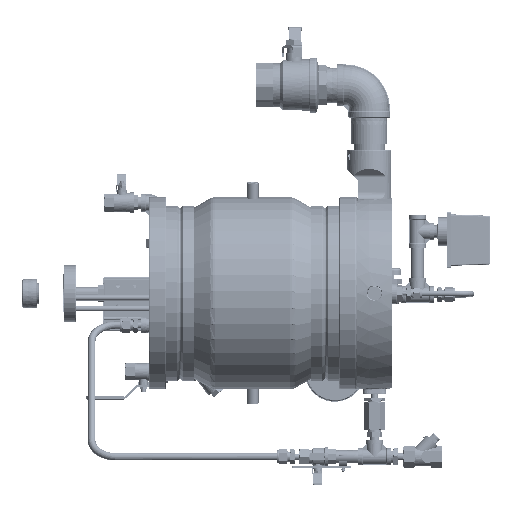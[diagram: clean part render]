
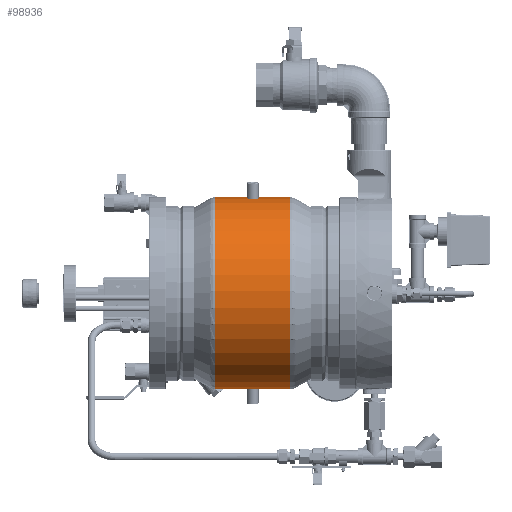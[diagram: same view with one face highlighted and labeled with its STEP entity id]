
A CAD part, top view. The second image highlights one B-rep face of the part: STEP entity #98936.
In plain terms, the highlighted cylindrical face has radius 162 mm (diameter 324 mm), a partial arc.
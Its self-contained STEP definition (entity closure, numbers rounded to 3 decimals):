
#5675=FACE_BOUND('',#18725,.T.);
#5676=FACE_BOUND('',#18726,.T.);
#12537=FACE_OUTER_BOUND('',#18724,.T.);
#18724=EDGE_LOOP('',(#78276,#78277,#78278,#78279,#78280,#78281,#78282,#78283));
#18725=EDGE_LOOP('',(#78284,#78285));
#18726=EDGE_LOOP('',(#78286,#78287));
#24284=LINE('',#160090,#30527);
#24285=LINE('',#160092,#30528);
#24286=LINE('',#160094,#30529);
#24287=LINE('',#160096,#30530);
#24288=LINE('',#160098,#30531);
#24289=LINE('',#160104,#30532);
#25549=LINE('',#168072,#31792);
#25550=LINE('',#168075,#31793);
#30527=VECTOR('',#125033,162.);
#30528=VECTOR('',#125034,10.);
#30529=VECTOR('',#125035,162.);
#30530=VECTOR('',#125036,10.);
#30531=VECTOR('',#125037,162.);
#30532=VECTOR('',#125042,162.);
#31792=VECTOR('',#128436,10.);
#31793=VECTOR('',#128437,10.);
#36229=CIRCLE('',#107494,162.);
#36230=CIRCLE('',#107496,162.);
#42161=VERTEX_POINT('',#160088);
#42162=VERTEX_POINT('',#160089);
#42163=VERTEX_POINT('',#160091);
#42164=VERTEX_POINT('',#160093);
#42165=VERTEX_POINT('',#160095);
#42166=VERTEX_POINT('',#160097);
#42168=VERTEX_POINT('',#160101);
#42169=VERTEX_POINT('',#160103);
#43546=VERTEX_POINT('',#168070);
#43547=VERTEX_POINT('',#168071);
#43548=VERTEX_POINT('',#168073);
#43549=VERTEX_POINT('',#168074);
#53599=EDGE_CURVE('',#42161,#42162,#24284,.T.);
#53600=EDGE_CURVE('',#42163,#42161,#24285,.T.);
#53601=EDGE_CURVE('',#42164,#42163,#24286,.T.);
#53602=EDGE_CURVE('',#42165,#42164,#24287,.T.);
#53603=EDGE_CURVE('',#42166,#42165,#24288,.T.);
#53606=EDGE_CURVE('',#42169,#42168,#24289,.T.);
#55668=EDGE_CURVE('',#42169,#42162,#36229,.T.);
#55669=EDGE_CURVE('',#42166,#42168,#36230,.T.);
#55670=EDGE_CURVE('',#43546,#43547,#25549,.T.);
#55671=EDGE_CURVE('',#43548,#43549,#25550,.T.);
#78276=ORIENTED_EDGE('',*,*,#53599,.T.);
#78277=ORIENTED_EDGE('',*,*,#55668,.F.);
#78278=ORIENTED_EDGE('',*,*,#53606,.T.);
#78279=ORIENTED_EDGE('',*,*,#55669,.F.);
#78280=ORIENTED_EDGE('',*,*,#53603,.T.);
#78281=ORIENTED_EDGE('',*,*,#53602,.T.);
#78282=ORIENTED_EDGE('',*,*,#53601,.T.);
#78283=ORIENTED_EDGE('',*,*,#53600,.T.);
#78284=ORIENTED_EDGE('',*,*,#55670,.T.);
#78285=ORIENTED_EDGE('',*,*,#55670,.F.);
#78286=ORIENTED_EDGE('',*,*,#55671,.T.);
#78287=ORIENTED_EDGE('',*,*,#55671,.F.);
#89545=CYLINDRICAL_SURFACE('',#107495,162.);
#98936=ADVANCED_FACE('',(#12537,#5675,#5676),#89545,.T.);
#107494=AXIS2_PLACEMENT_3D('',#168067,#128430,#128431);
#107495=AXIS2_PLACEMENT_3D('',#168068,#128432,#128433);
#107496=AXIS2_PLACEMENT_3D('',#168069,#128434,#128435);
#125033=DIRECTION('',(1.,0.,0.));
#125034=DIRECTION('',(1.,0.,0.));
#125035=DIRECTION('',(1.,0.,0.));
#125036=DIRECTION('',(1.,0.,0.));
#125037=DIRECTION('',(1.,0.,0.));
#125042=DIRECTION('',(-1.,0.,0.));
#128430=DIRECTION('center_axis',(1.,0.,0.));
#128431=DIRECTION('ref_axis',(0.,1.,0.));
#128432=DIRECTION('center_axis',(1.,0.,0.));
#128433=DIRECTION('ref_axis',(0.,0.99,0.139));
#128434=DIRECTION('center_axis',(-1.,0.,0.));
#128435=DIRECTION('ref_axis',(0.,1.,0.));
#128436=DIRECTION('',(1.,0.,0.));
#128437=DIRECTION('',(1.,0.,0.));
#160088=CARTESIAN_POINT('',(294.853,323.259,668.926));
#160089=CARTESIAN_POINT('',(347.517,323.259,668.926));
#160090=CARTESIAN_POINT('',(284.853,323.259,668.926));
#160091=CARTESIAN_POINT('',(289.041,323.259,668.926));
#160092=CARTESIAN_POINT('',(284.853,323.259,668.926));
#160093=CARTESIAN_POINT('',(280.665,323.259,668.926));
#160094=CARTESIAN_POINT('',(284.853,323.259,668.926));
#160095=CARTESIAN_POINT('',(274.853,323.259,668.926));
#160096=CARTESIAN_POINT('',(284.853,323.259,668.926));
#160097=CARTESIAN_POINT('',(222.188,323.259,668.926));
#160098=CARTESIAN_POINT('',(284.853,323.259,668.926));
#160101=CARTESIAN_POINT('',(222.188,645.683,691.472));
#160103=CARTESIAN_POINT('',(347.517,645.683,691.472));
#160104=CARTESIAN_POINT('',(284.853,645.683,691.472));
#168067=CARTESIAN_POINT('Origin',(347.517,483.683,691.472));
#168068=CARTESIAN_POINT('Origin',(284.853,483.683,691.472));
#168069=CARTESIAN_POINT('Origin',(222.188,483.683,691.472));
#168070=CARTESIAN_POINT('',(274.853,644.106,714.018));
#168071=CARTESIAN_POINT('',(280.665,644.106,714.018));
#168072=CARTESIAN_POINT('',(284.853,644.106,714.018));
#168073=CARTESIAN_POINT('',(289.041,644.106,714.018));
#168074=CARTESIAN_POINT('',(294.853,644.106,714.018));
#168075=CARTESIAN_POINT('',(284.853,644.106,714.018));
